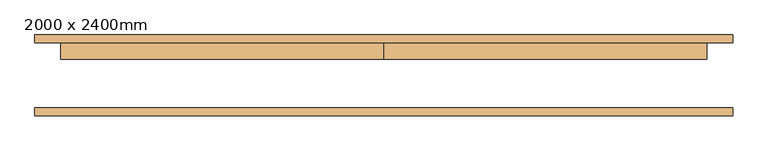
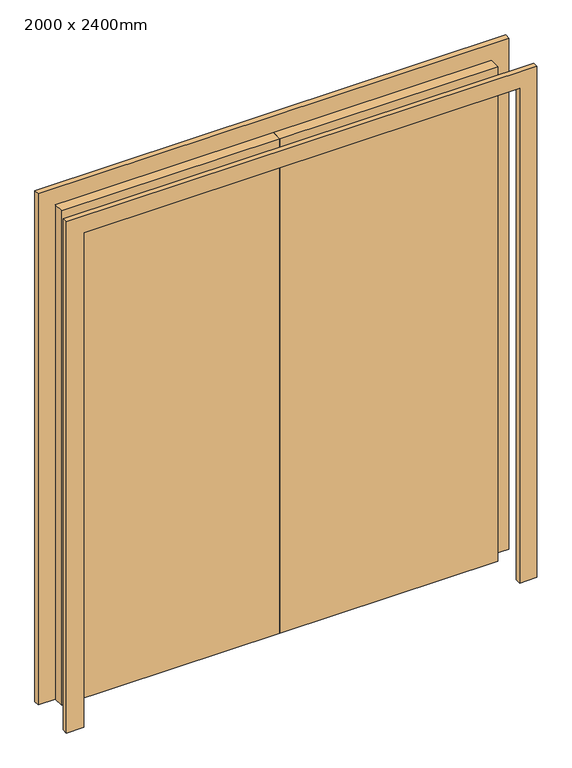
"""IFC4 building model written with IfcOpenShell, lengths in millimetres: door geometry, Porta-Nivelado-Duplo_Painel : 2000 x 2400mm."""

from ifc_helpers import new_model, si_unit, frame, origin, origin_with_axes, place, context, project, spatial, polyline, outline, extrude, source, transform, mapped, element, save


def door_2000_x_2400mm_20d38f9c(model_context):
    return source(origin(), model_context, "Body", "SweptSolid", [
        extrude(outline(polyline([(2400.0, -1000.0), (2400.0, 1000.0), (0.0, 1000.0), (0.0, 1080.0), (2480.0, 1080.0), (2480.0, -1080.0), (0.0, -1080.0), (0.0, -1000.0), (2400.0, -1000.0)])), frame((0.0, -125.0, 0.0), z_axis=(0.0, 1.0, 0.0), x_axis=(0.0, 0.0, 1.0)), (0.0, 0.0, 1.0), 25.0),
        extrude(outline(polyline([(2400.0, -1000.0), (2400.0, 1000.0), (0.0, 1000.0), (0.0, 1080.0), (2480.0, 1080.0), (2480.0, -1080.0), (0.0, -1080.0), (0.0, -1000.0), (2400.0, -1000.0)])), frame((0.0, 100.0, 0.0), z_axis=(0.0, 1.0, 0.0), x_axis=(0.0, 0.0, 1.0)), (0.0, 0.0, 1.0), 25.0),
        extrude(outline(polyline([(0.0, 100.0), (1000.0, 100.0), (1000.0, 50.0), (0.0, 50.0), (0.0, 100.0)])), origin_with_axes(), (0.0, 0.0, 1.0), 2400.0),
        extrude(outline(polyline([(-1000.0, 100.0), (0.0, 100.0), (0.0, 50.0), (-1000.0, 50.0), (-1000.0, 100.0)])), origin_with_axes(), (0.0, 0.0, 1.0), 2400.0),
    ])


if __name__ == "__main__":
    model = new_model("IFC4")
    model_context = context("Model", 3, world=origin())
    ifc_project = project(units=[si_unit("LENGTHUNIT", "METRE", prefix="MILLI")], contexts=[model_context])
    site = spatial("IfcSite", under=ifc_project)
    building = spatial("IfcBuilding", under=site)
    placement = place(None, origin())
    door_2000_x_2400mm_shape = door_2000_x_2400mm_20d38f9c(model_context)
    element("IfcDoor", 1, ObjectType="Porta-Nivelado-Duplo_Painel : 2000 x 2400mm", at=placement, inside=building, context=model_context, shape_type="MappedRepresentation", body=[
        mapped(door_2000_x_2400mm_shape, transform((0.0, 0.0, 0.0), x_axis=(1.0, 0.0, 0.0), y_axis=(0.0, 1.0, 0.0), z_axis=(0.0, 0.0, 1.0))),
    ])
    save(model, "model.ifc")
